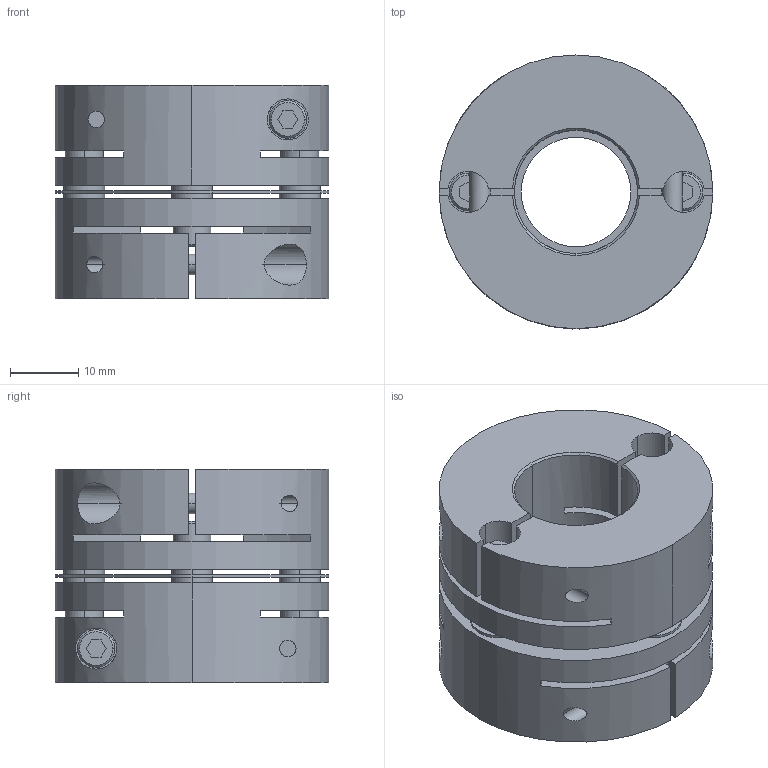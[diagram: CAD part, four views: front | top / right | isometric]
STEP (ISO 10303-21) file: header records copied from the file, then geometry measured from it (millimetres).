
FILE_DESCRIPTION((''),'2;1');
FILE_NAME('LAS-40C-18×18.stp','2014-02-05T09:02:02',(''),(''),'AutoCAD STEP 2000i','AutoCAD 2000i',', , ');
FILE_SCHEMA(('CONFIG_CONTROL_DESIGN'));
Length unit declared in the file: millimetre
Products named in the file (7): LAS-40C-15×15; 忣兜1; LA-4002-D15-1; LA-4002-D15; LA-4002-D10-1; LA-4002-D10; LAS40-ITA
Assembly tree (6 placements, depth 2):
  LAS-40C-15×15
    忣兜1
    LA-4002-D15-1
    LA-4002-D15
    LA-4002-D10-1
    LA-4002-D10
    LAS40-ITA
Bounding box: 40 x 40 x 31.2 mm (x, y, z)
Volume: 26922 mm3; surface area: 14810.1 mm2
Topology: 1 solids, 1 shells, 236 faces, 624 edges, 408 vertices
Faces by surface type: plane 112, cylinder 96, cone 28
Entity records: 8247 total; most frequent: CARTESIAN_POINT 2027, DIRECTION 1306, ORIENTED_EDGE 1248, EDGE_CURVE 624, AXIS2_PLACEMENT_3D 479, VERTEX_POINT 408, VECTOR 348, LINE 348
